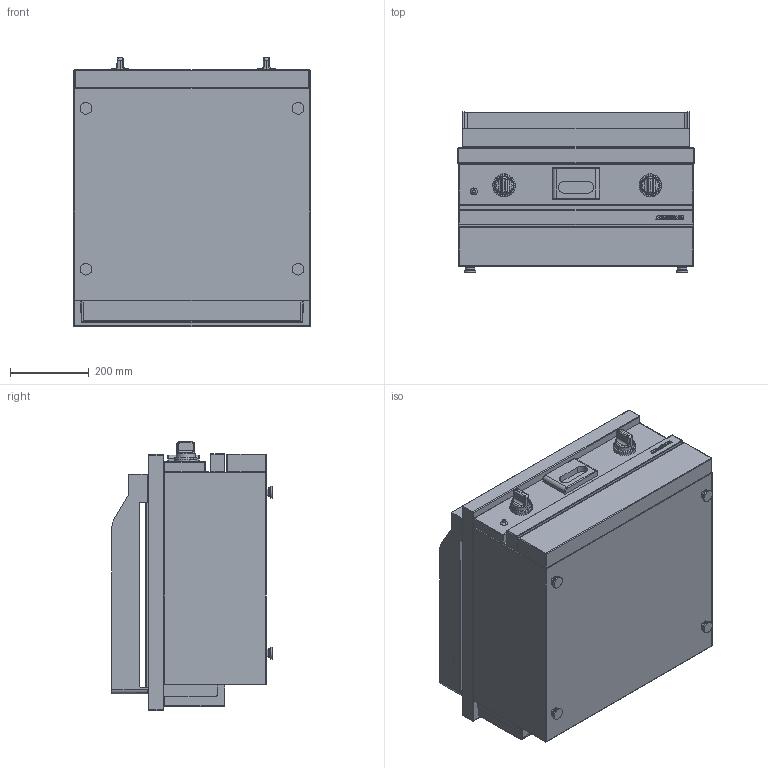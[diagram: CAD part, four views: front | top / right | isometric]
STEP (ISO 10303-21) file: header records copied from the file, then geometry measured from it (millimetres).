
FILE_DESCRIPTION((''),'2;1');
FILE_NAME('CSG610SRKC_EXPORT_STEP_ASM','2017-11-22T',('r.avril'),(''),'PRO/ENGINEER BY PARAMETRIC TECHNOLOGY CORPORATION, 2014200','PRO/ENGINEER BY PARAMETRIC TECHNOLOGY CORPORATION, 2014200','');
FILE_SCHEMA(('AP203_CONFIGURATION_CONTROLLED_3D_DESIGN_OF_MECHANICAL_PARTS_AND_ASSEMBLIES_MIM_LF { 1 0 10303 403 2 1 2 }'));
Length unit declared in the file: millimetre
Products named in the file (11): SNACKS_AMB_600_EXPORT_STEP; TABLE_610_GRILLADE; TABLE_610_GRILLADE_ASM; MANETTE_AMB_EXPORT_STEP; ALLUMEUR_EXPORT_STEP; TIROIR_GRILLADE_EXPORT_STEP; CEINTURE_PLAQUE_GRILLADE_600; 50289000; 50293100; 65070009_ASM; CSG610SRKC_EXPORT_STEP_ASM
Assembly tree (11 placements, depth 3):
  CSG610SRKC_EXPORT_STEP_ASM
    SNACKS_AMB_600_EXPORT_STEP
    TABLE_610_GRILLADE_ASM
      TABLE_610_GRILLADE
    MANETTE_AMB_EXPORT_STEP  x2
    ALLUMEUR_EXPORT_STEP
    TIROIR_GRILLADE_EXPORT_STEP
    65070009_ASM
      CEINTURE_PLAQUE_GRILLADE_600
      50289000
      50293100
Bounding box: 600 x 407.33 x 682.5 mm (x, y, z)
Volume: 53799212.1 mm3; surface area: 4190377.8 mm2
Topology: 14 solids, 40 shells, 873 faces, 2868 edges, 2291 vertices
Faces by surface type: plane 332, cylinder 239, cone 162, torus 76, sphere 40, bspline 24
Entity records: 38625 total; most frequent: CARTESIAN_POINT 10191, DIRECTION 4660, ORIENTED_EDGE 4535, EDGE_CURVE 2508, VERTEX_POINT 1748, AXIS2_PLACEMENT_3D 1599, VECTOR 1429, LINE 1429
